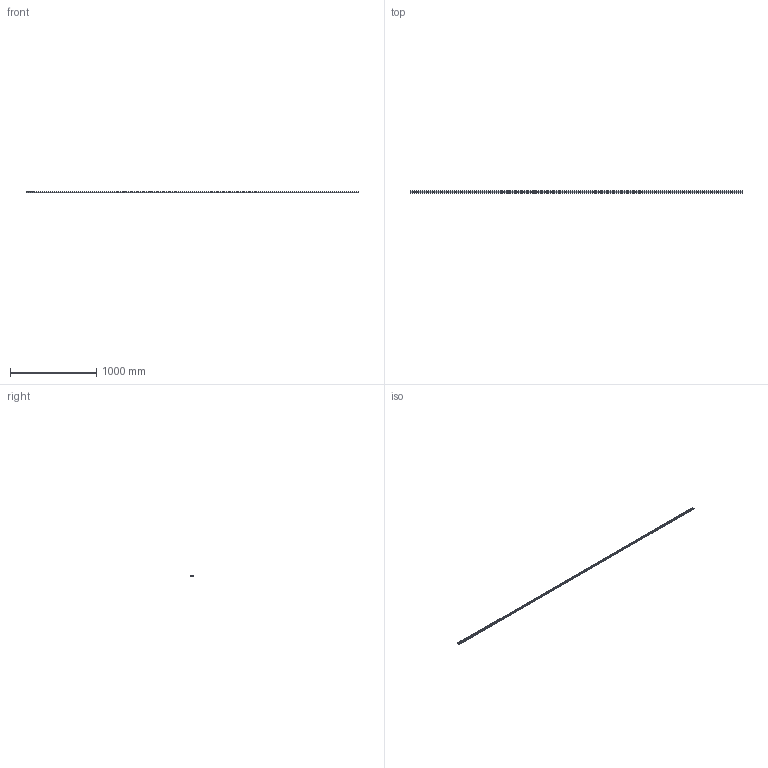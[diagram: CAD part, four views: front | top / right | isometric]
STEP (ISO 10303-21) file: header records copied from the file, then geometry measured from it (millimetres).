
FILE_DESCRIPTION( ( 'STEP AP214' ), '1' );
FILE_NAME( 'p:/temp/worker_22/temp/exporttempdir_5640_324_0K8Os/format_1/TEN26-3840-CEN26-92.stp', '2020-05-08T18:56:04', ( 'License CC BY-ND 4.0' ), ( 'CADENAS' ), ' ', 'PARTsolutions', ' ' );
FILE_SCHEMA( ( 'AUTOMOTIVE_DESIGN { 1 0 10303 214 1 1 1 1 }' ) );
Length unit declared in the file: millimetre
Products named in the file (6): TEN26-3840-CEN26-92; _TEN 26-3840; _CEN26-92_1; _RLN26(11.2_M5); _RLA26(11.2_M5); _LAN-26
Assembly tree (8 placements, depth 2):
  TEN26-3840-CEN26-92
    _TEN 26-3840
    _CEN26-92_1
    _RLN26(11.2_M5)  x2
    _RLA26(11.2_M5)
    _LAN-26  x3
Bounding box: 3840 x 25.88 x 22 mm (x, y, z)
Volume: 409581.8 mm3; surface area: 347972.7 mm2
Topology: 8 solids, 8 shells, 281 faces, 645 edges, 407 vertices
Faces by surface type: plane 131, cylinder 117, cone 24, bspline 9
Full cylindrical faces by diameter (mm): 2.5 x2, 4.134 x5, 4.5 x3, 5 x6, 6.5 x48, 9.3 x3, 11.2 x6, 11.6 x6, 15.7 x6, 16.7 x6
Entity records: 7274 total; most frequent: CARTESIAN_POINT 1025, DIRECTION 1000, ORIENTED_EDGE 726, AXIS2_PLACEMENT_3D 436, EDGE_LOOP 424, EDGE_CURVE 363, VERTEX_POINT 293, FACE_OUTER_BOUND 280
